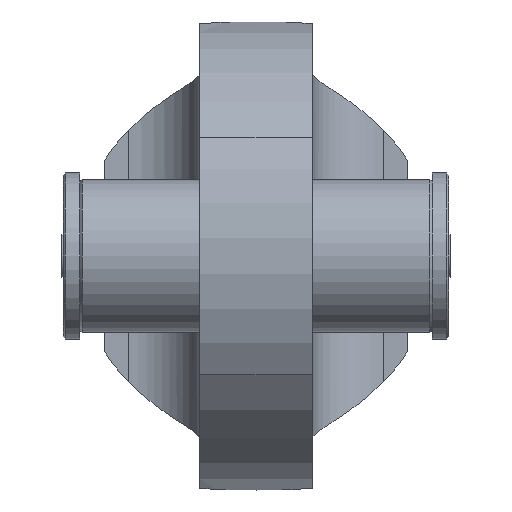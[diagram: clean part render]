
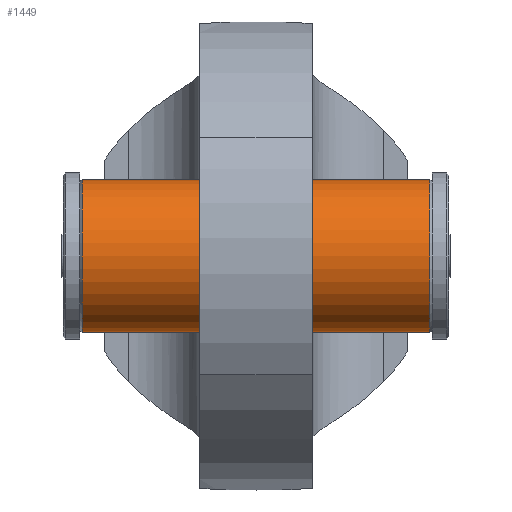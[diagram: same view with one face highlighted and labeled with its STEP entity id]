
A CAD part, left-side view. The second image highlights one B-rep face of the part: STEP entity #1449.
In plain terms, the highlighted cylindrical face has radius 64.5 mm (diameter 129 mm), a full revolution.
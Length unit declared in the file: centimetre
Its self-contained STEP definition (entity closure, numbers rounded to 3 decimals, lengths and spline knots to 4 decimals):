
#183=CYLINDRICAL_SURFACE('',#1598,6.45);
#279=FACE_BOUND('',#491,.T.);
#355=FACE_OUTER_BOUND('',#490,.T.);
#490=EDGE_LOOP('',(#1074));
#491=EDGE_LOOP('',(#1075));
#608=CIRCLE('',#1597,6.45);
#609=CIRCLE('',#1599,6.45);
#702=VERTEX_POINT('',#2294);
#703=VERTEX_POINT('',#2297);
#844=EDGE_CURVE('',#702,#702,#608,.T.);
#845=EDGE_CURVE('',#703,#703,#609,.T.);
#1074=ORIENTED_EDGE('',*,*,#845,.F.);
#1075=ORIENTED_EDGE('',*,*,#844,.F.);
#1449=ADVANCED_FACE('',(#355,#279),#183,.T.);
#1597=AXIS2_PLACEMENT_3D('',#2295,#1876,#1877);
#1598=AXIS2_PLACEMENT_3D('',#2296,#1878,#1879);
#1599=AXIS2_PLACEMENT_3D('',#2298,#1880,#1881);
#1876=DIRECTION('center_axis',(0.,1.,0.));
#1877=DIRECTION('ref_axis',(1.,0.,0.));
#1878=DIRECTION('center_axis',(0.,-1.,0.));
#1879=DIRECTION('ref_axis',(1.,0.,0.));
#1880=DIRECTION('center_axis',(0.,-1.,0.));
#1881=DIRECTION('ref_axis',(1.,0.,0.));
#2294=CARTESIAN_POINT('',(-6.45,14.65,0.));
#2295=CARTESIAN_POINT('Origin',(0.,14.65,0.));
#2296=CARTESIAN_POINT('Origin',(0.,0.,0.));
#2297=CARTESIAN_POINT('',(-6.45,-14.65,0.));
#2298=CARTESIAN_POINT('Origin',(0.,-14.65,0.));
